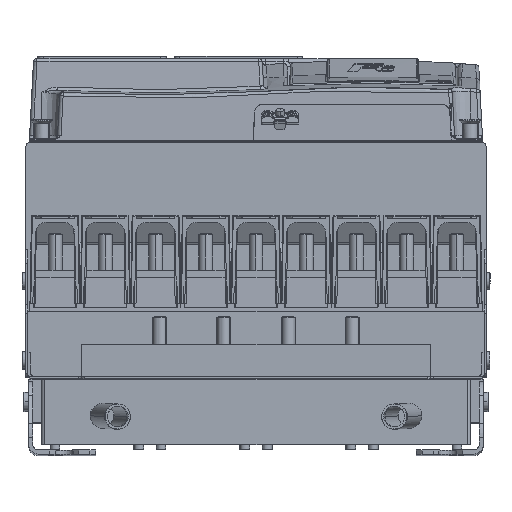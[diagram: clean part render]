
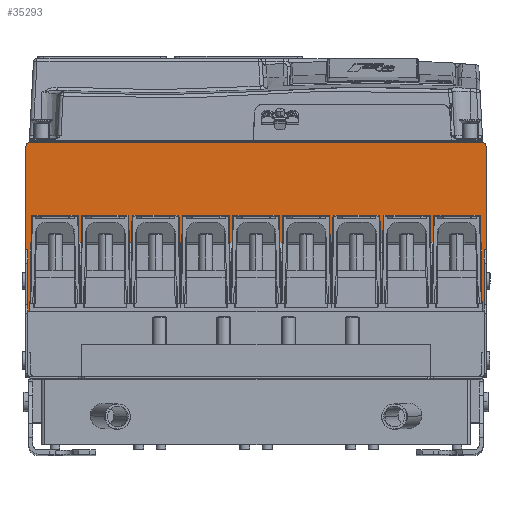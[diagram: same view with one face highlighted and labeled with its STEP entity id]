
A CAD part, top view. The second image highlights one B-rep face of the part: STEP entity #35293.
In plain terms, the highlighted planar face has unit normal (0, 0, 1).
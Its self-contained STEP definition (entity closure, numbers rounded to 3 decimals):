
#2104 = VERTEX_POINT ( 'NONE', #64404 ) ;
#2311 = LINE ( 'NONE', #93157, #53574 ) ;
#2625 = EDGE_CURVE ( 'NONE', #27043, #35082, #28653, .T. ) ;
#3531 = VECTOR ( 'NONE', #64688, 1000. ) ;
#3762 = VECTOR ( 'NONE', #77394, 1000. ) ;
#4090 = DIRECTION ( 'NONE',  ( 0., 0., -1. ) ) ;
#4847 = ORIENTED_EDGE ( 'NONE', *, *, #21814, .F. ) ;
#5911 = DIRECTION ( 'NONE',  ( 0., -1., 0. ) ) ;
#7947 = CARTESIAN_POINT ( 'NONE',  ( 0., 0., 453. ) ) ;
#12748 = DIRECTION ( 'NONE',  ( 0., 1., 0. ) ) ;
#17557 = CARTESIAN_POINT ( 'NONE',  ( -161.5, 0., 453. ) ) ;
#20673 = CARTESIAN_POINT ( 'NONE',  ( 165., -3.5, 453. ) ) ;
#21126 = AXIS2_PLACEMENT_3D ( 'NONE', #77375, #4090, #61327 ) ;
#21416 = CARTESIAN_POINT ( 'NONE',  ( -165., -77., 453. ) ) ;
#21814 = EDGE_CURVE ( 'NONE', #34472, #98552, #21847, .T. ) ;
#21847 = LINE ( 'NONE', #63612, #3531 ) ;
#24023 = LINE ( 'NONE', #7947, #68460 ) ;
#24077 = EDGE_CURVE ( 'NONE', #32660, #94159, #24023, .T. ) ;
#24774 = CARTESIAN_POINT ( 'NONE',  ( 163.5, -167.9, 453. ) ) ;
#25471 = AXIS2_PLACEMENT_3D ( 'NONE', #78285, #69761, #76203 ) ;
#26393 = ORIENTED_EDGE ( 'NONE', *, *, #62822, .F. ) ;
#27043 = VERTEX_POINT ( 'NONE', #75592 ) ;
#27439 = ORIENTED_EDGE ( 'NONE', *, *, #93543, .T. ) ;
#28653 = LINE ( 'NONE', #102434, #84365 ) ;
#28872 = CARTESIAN_POINT ( 'NONE',  ( 161.5, 0., 453. ) ) ;
#30834 = LINE ( 'NONE', #103555, #3762 ) ;
#32660 = VERTEX_POINT ( 'NONE', #17557 ) ;
#33233 = ORIENTED_EDGE ( 'NONE', *, *, #2625, .T. ) ;
#34472 = VERTEX_POINT ( 'NONE', #105086 ) ;
#34570 = ORIENTED_EDGE ( 'NONE', *, *, #88384, .F. ) ;
#35082 = VERTEX_POINT ( 'NONE', #21416 ) ;
#35096 = EDGE_CURVE ( 'NONE', #104838, #83265, #46579, .T. ) ;
#35293 = ADVANCED_FACE ( 'NONE', ( #99436 ), #91938, .F. ) ;
#40612 = DIRECTION ( 'NONE',  ( 1., 0., 0. ) ) ;
#40890 = EDGE_LOOP ( 'NONE', ( #55470, #33233, #27439, #4847, #78819, #68555, #34570, #62831, #26393, #101357 ) ) ;
#44333 = CARTESIAN_POINT ( 'NONE',  ( 161.5, -3.5, 453. ) ) ;
#46579 = LINE ( 'NONE', #79201, #65786 ) ;
#53574 = VECTOR ( 'NONE', #77149, 1000. ) ;
#55470 = ORIENTED_EDGE ( 'NONE', *, *, #63570, .F. ) ;
#56139 = EDGE_CURVE ( 'NONE', #2104, #83716, #2311, .T. ) ;
#56529 = VECTOR ( 'NONE', #100176, 1000. ) ;
#57848 = AXIS2_PLACEMENT_3D ( 'NONE', #44333, #86025, #12748 ) ;
#61327 = DIRECTION ( 'NONE',  ( 0., 1., 0. ) ) ;
#62822 = EDGE_CURVE ( 'NONE', #94159, #83716, #100509, .T. ) ;
#62831 = ORIENTED_EDGE ( 'NONE', *, *, #56139, .T. ) ;
#63570 = EDGE_CURVE ( 'NONE', #27043, #32660, #71600, .T. ) ;
#63612 = CARTESIAN_POINT ( 'NONE',  ( -163.5, 0., 453. ) ) ;
#64404 = CARTESIAN_POINT ( 'NONE',  ( 165., -77., 453. ) ) ;
#64688 = DIRECTION ( 'NONE',  ( 0., 1., 0. ) ) ;
#65065 = CARTESIAN_POINT ( 'NONE',  ( -163.5, -77., 453. ) ) ;
#65786 = VECTOR ( 'NONE', #5911, 1000. ) ;
#68460 = VECTOR ( 'NONE', #40612, 1000. ) ;
#68555 = ORIENTED_EDGE ( 'NONE', *, *, #35096, .F. ) ;
#68641 = LINE ( 'NONE', #76128, #56529 ) ;
#69761 = DIRECTION ( 'NONE',  ( 0., 0., -1. ) ) ;
#71017 = CARTESIAN_POINT ( 'NONE',  ( -165.001, -77., 453. ) ) ;
#71600 = CIRCLE ( 'NONE', #25471, 3.5 ) ;
#75592 = CARTESIAN_POINT ( 'NONE',  ( -165., -3.5, 453. ) ) ;
#76128 = CARTESIAN_POINT ( 'NONE',  ( 165.001, -77., 453. ) ) ;
#76203 = DIRECTION ( 'NONE',  ( 0., 1., 0. ) ) ;
#77149 = DIRECTION ( 'NONE',  ( 0., 1., 0. ) ) ;
#77375 = CARTESIAN_POINT ( 'NONE',  ( 0., 0., 453. ) ) ;
#77394 = DIRECTION ( 'NONE',  ( -1., 0., 0. ) ) ;
#78285 = CARTESIAN_POINT ( 'NONE',  ( -161.5, -3.5, 453. ) ) ;
#78819 = ORIENTED_EDGE ( 'NONE', *, *, #86853, .F. ) ;
#79201 = CARTESIAN_POINT ( 'NONE',  ( 163.5, 0., 453. ) ) ;
#79561 = VECTOR ( 'NONE', #105174, 1000. ) ;
#80616 = LINE ( 'NONE', #71017, #79561 ) ;
#83265 = VERTEX_POINT ( 'NONE', #24774 ) ;
#83716 = VERTEX_POINT ( 'NONE', #20673 ) ;
#84365 = VECTOR ( 'NONE', #93348, 1000. ) ;
#86025 = DIRECTION ( 'NONE',  ( 0., 0., -1. ) ) ;
#86853 = EDGE_CURVE ( 'NONE', #83265, #34472, #30834, .T. ) ;
#88384 = EDGE_CURVE ( 'NONE', #2104, #104838, #68641, .T. ) ;
#91938 = PLANE ( 'NONE',  #21126 ) ;
#93157 = CARTESIAN_POINT ( 'NONE',  ( 165., -3.5, 453. ) ) ;
#93348 = DIRECTION ( 'NONE',  ( 0., -1., 0. ) ) ;
#93543 = EDGE_CURVE ( 'NONE', #35082, #98552, #80616, .T. ) ;
#94159 = VERTEX_POINT ( 'NONE', #28872 ) ;
#94965 = CARTESIAN_POINT ( 'NONE',  ( 163.5, -77., 453. ) ) ;
#98552 = VERTEX_POINT ( 'NONE', #65065 ) ;
#99436 = FACE_OUTER_BOUND ( 'NONE', #40890, .T. ) ;
#100176 = DIRECTION ( 'NONE',  ( -1., 0., 0. ) ) ;
#100509 = CIRCLE ( 'NONE', #57848, 3.5 ) ;
#101357 = ORIENTED_EDGE ( 'NONE', *, *, #24077, .F. ) ;
#102434 = CARTESIAN_POINT ( 'NONE',  ( -165., -3.5, 453. ) ) ;
#103555 = CARTESIAN_POINT ( 'NONE',  ( 0., -167.9, 453. ) ) ;
#104838 = VERTEX_POINT ( 'NONE', #94965 ) ;
#105086 = CARTESIAN_POINT ( 'NONE',  ( -163.5, -167.9, 453. ) ) ;
#105174 = DIRECTION ( 'NONE',  ( 1., 0., 0. ) ) ;
